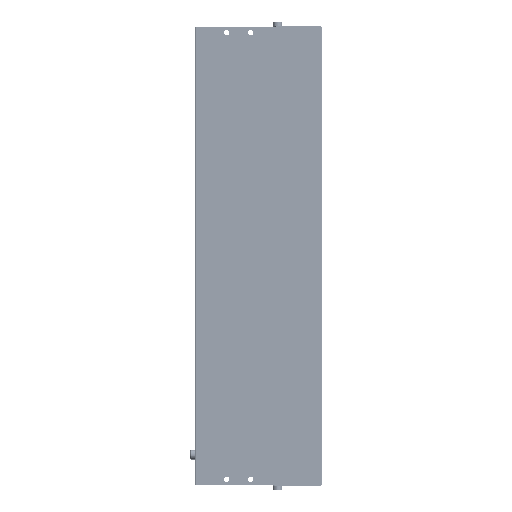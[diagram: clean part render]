
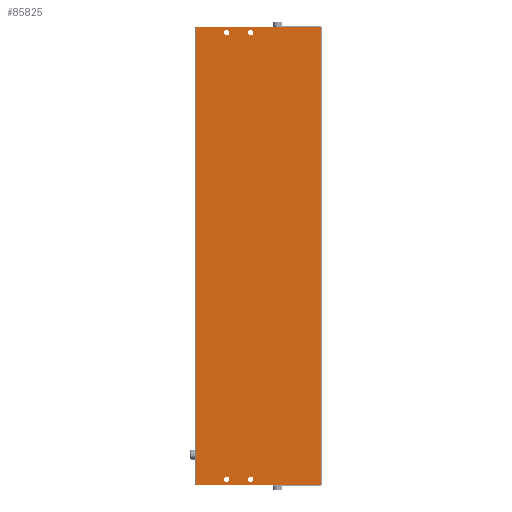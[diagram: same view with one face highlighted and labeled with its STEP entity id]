
A CAD part, front view. The second image highlights one B-rep face of the part: STEP entity #85825.
In plain terms, the highlighted planar face has unit normal (0, -1, 0).
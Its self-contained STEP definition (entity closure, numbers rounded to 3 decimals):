
#48681=DIRECTION('',(-1.,0.,0.));
#48682=VECTOR('',#48681,105.);
#48683=CARTESIAN_POINT('',(52.5,-16.9,0.));
#48684=LINE('',#48683,#48682);
#48879=DIRECTION('',(1.,0.,0.));
#48880=VECTOR('',#48879,105.);
#48881=CARTESIAN_POINT('',(-52.5,-16.9,384.));
#48882=LINE('',#48881,#48880);
#52364=CARTESIAN_POINT('',(-26.5,-16.9,379.));
#52365=DIRECTION('',(0.,1.,0.));
#52366=DIRECTION('',(0.,0.,1.));
#52367=AXIS2_PLACEMENT_3D('',#52364,#52365,#52366);
#52369=CARTESIAN_POINT('',(-26.5,-16.9,379.));
#52370=DIRECTION('',(0.,1.,0.));
#52371=DIRECTION('',(0.,0.,-1.));
#52372=AXIS2_PLACEMENT_3D('',#52369,#52370,#52371);
#52374=CARTESIAN_POINT('',(-6.5,-16.9,379.));
#52375=DIRECTION('',(0.,1.,0.));
#52376=DIRECTION('',(0.,0.,1.));
#52377=AXIS2_PLACEMENT_3D('',#52374,#52375,#52376);
#52379=CARTESIAN_POINT('',(-6.5,-16.9,379.));
#52380=DIRECTION('',(0.,1.,0.));
#52381=DIRECTION('',(0.,0.,-1.));
#52382=AXIS2_PLACEMENT_3D('',#52379,#52380,#52381);
#52384=CARTESIAN_POINT('',(-26.5,-16.9,5.));
#52385=DIRECTION('',(0.,1.,0.));
#52386=DIRECTION('',(0.,0.,-1.));
#52387=AXIS2_PLACEMENT_3D('',#52384,#52385,#52386);
#52389=CARTESIAN_POINT('',(-26.5,-16.9,5.));
#52390=DIRECTION('',(0.,1.,0.));
#52391=DIRECTION('',(0.,0.,1.));
#52392=AXIS2_PLACEMENT_3D('',#52389,#52390,#52391);
#52394=CARTESIAN_POINT('',(-6.5,-16.9,5.));
#52395=DIRECTION('',(0.,1.,0.));
#52396=DIRECTION('',(0.,0.,-1.));
#52397=AXIS2_PLACEMENT_3D('',#52394,#52395,#52396);
#52399=CARTESIAN_POINT('',(-6.5,-16.9,5.));
#52400=DIRECTION('',(0.,1.,0.));
#52401=DIRECTION('',(0.,0.,1.));
#52402=AXIS2_PLACEMENT_3D('',#52399,#52400,#52401);
#52408=DIRECTION('',(0.,0.,1.));
#52409=VECTOR('',#52408,384.);
#52410=CARTESIAN_POINT('',(-52.5,-16.9,0.));
#52411=LINE('',#52410,#52409);
#52416=DIRECTION('',(0.,0.,-1.));
#52417=VECTOR('',#52416,384.);
#52418=CARTESIAN_POINT('',(52.5,-16.9,384.));
#52419=LINE('',#52418,#52417);
#76958=CARTESIAN_POINT('',(52.5,-16.9,384.));
#76960=VERTEX_POINT('',#76958);
#77612=CARTESIAN_POINT('',(52.5,-16.9,0.));
#77613=CARTESIAN_POINT('',(-52.5,-16.9,0.));
#77614=VERTEX_POINT('',#77612);
#77615=VERTEX_POINT('',#77613);
#78319=CARTESIAN_POINT('',(-26.5,-16.9,2.75));
#78320=VERTEX_POINT('',#78319);
#78354=CARTESIAN_POINT('',(-26.5,-16.9,381.25));
#78356=VERTEX_POINT('',#78354);
#78788=CARTESIAN_POINT('',(-26.5,-16.9,376.75));
#78789=VERTEX_POINT('',#78788);
#80503=CARTESIAN_POINT('',(-6.5,-16.9,376.75));
#80505=VERTEX_POINT('',#80503);
#80909=CARTESIAN_POINT('',(-6.5,-16.9,381.25));
#80910=VERTEX_POINT('',#80909);
#81493=CARTESIAN_POINT('',(-26.5,-16.9,7.25));
#81494=VERTEX_POINT('',#81493);
#81623=CARTESIAN_POINT('',(-6.5,-16.9,7.25));
#81624=CARTESIAN_POINT('',(-6.5,-16.9,2.75));
#81625=VERTEX_POINT('',#81623);
#81626=VERTEX_POINT('',#81624);
#82475=CARTESIAN_POINT('',(-52.5,-16.9,384.));
#82476=VERTEX_POINT('',#82475);
#85789=CARTESIAN_POINT('',(-53.,-16.9,0.));
#85790=DIRECTION('',(0.,-1.,0.));
#85791=DIRECTION('',(0.,0.,-1.));
#85792=AXIS2_PLACEMENT_3D('',#85789,#85790,#85791);
#85793=PLANE('',#85792);
#85795=ORIENTED_EDGE('',*,*,#85794,.T.);
#85796=ORIENTED_EDGE('',*,*,#83720,.T.);
#85798=ORIENTED_EDGE('',*,*,#85797,.T.);
#85799=ORIENTED_EDGE('',*,*,#83596,.T.);
#85800=EDGE_LOOP('',(#85795,#85796,#85798,#85799));
#85801=FACE_OUTER_BOUND('',#85800,.F.);
#85803=ORIENTED_EDGE('',*,*,#85802,.F.);
#85805=ORIENTED_EDGE('',*,*,#85804,.F.);
#85806=EDGE_LOOP('',(#85803,#85805));
#85807=FACE_BOUND('',#85806,.F.);
#85809=ORIENTED_EDGE('',*,*,#85808,.F.);
#85810=ORIENTED_EDGE('',*,*,#85779,.F.);
#85811=EDGE_LOOP('',(#85809,#85810));
#85812=FACE_BOUND('',#85811,.F.);
#85814=ORIENTED_EDGE('',*,*,#85813,.F.);
#85816=ORIENTED_EDGE('',*,*,#85815,.F.);
#85817=EDGE_LOOP('',(#85814,#85816));
#85818=FACE_BOUND('',#85817,.F.);
#85820=ORIENTED_EDGE('',*,*,#85819,.F.);
#85822=ORIENTED_EDGE('',*,*,#85821,.F.);
#85823=EDGE_LOOP('',(#85820,#85822));
#85824=FACE_BOUND('',#85823,.F.);
#85825=ADVANCED_FACE('',(#85801,#85807,#85812,#85818,#85824),#85793,.T.);
#52368=CIRCLE('',#52367,2.25);
#52373=CIRCLE('',#52372,2.25);
#52378=CIRCLE('',#52377,2.25);
#52383=CIRCLE('',#52382,2.25);
#52388=CIRCLE('',#52387,2.25);
#52393=CIRCLE('',#52392,2.25);
#52398=CIRCLE('',#52397,2.25);
#52403=CIRCLE('',#52402,2.25);
#83596=EDGE_CURVE('',#77614,#77615,#48684,.T.);
#83720=EDGE_CURVE('',#82476,#76960,#48882,.T.);
#85779=EDGE_CURVE('',#80505,#80910,#52383,.T.);
#85794=EDGE_CURVE('',#77615,#82476,#52411,.T.);
#85797=EDGE_CURVE('',#76960,#77614,#52419,.T.);
#85802=EDGE_CURVE('',#78356,#78789,#52368,.T.);
#85804=EDGE_CURVE('',#78789,#78356,#52373,.T.);
#85808=EDGE_CURVE('',#80910,#80505,#52378,.T.);
#85813=EDGE_CURVE('',#78320,#81494,#52388,.T.);
#85815=EDGE_CURVE('',#81494,#78320,#52393,.T.);
#85819=EDGE_CURVE('',#81626,#81625,#52398,.T.);
#85821=EDGE_CURVE('',#81625,#81626,#52403,.T.);
